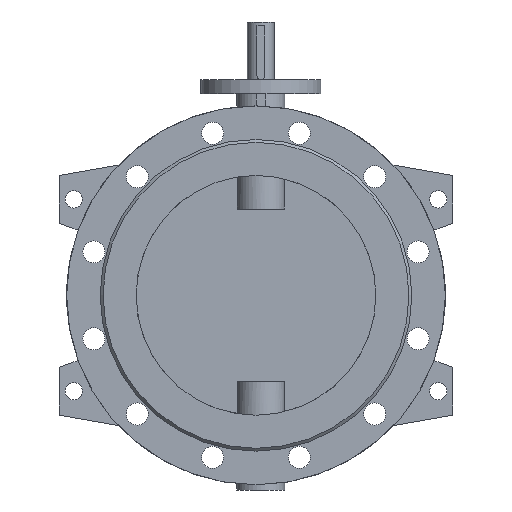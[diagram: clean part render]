
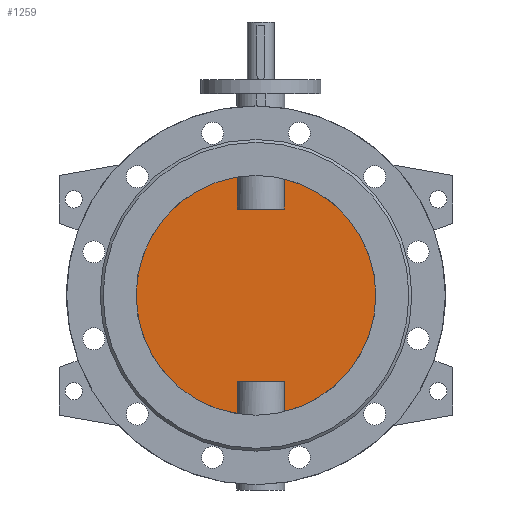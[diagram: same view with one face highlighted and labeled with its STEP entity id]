
A CAD part, front view. The second image highlights one B-rep face of the part: STEP entity #1259.
In plain terms, the highlighted planar face has unit normal (0, -1, 0).
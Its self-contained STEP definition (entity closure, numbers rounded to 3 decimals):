
#1259=ADVANCED_FACE('',(#2605),#2607,.F.);
#2605=FACE_BOUND('',#2606,.T.);
#2606=EDGE_LOOP('',(#3369,#3370,#3371,#3372,#3373,#3374,#3375,#3376));
#2607=PLANE('',#2608);
#2608=AXIS2_PLACEMENT_3D('',#2609,#2610,#2611);
#2609=CARTESIAN_POINT('',(0.,-5.,0.));
#2610=DIRECTION('',(0.,1.,0.));
#2611=DIRECTION('',(1.,0.,0.));
#3369=ORIENTED_EDGE('',*,*,#3751,.T.);
#3370=ORIENTED_EDGE('',*,*,#3767,.T.);
#3371=ORIENTED_EDGE('',*,*,#3768,.T.);
#3372=ORIENTED_EDGE('',*,*,#3769,.T.);
#3373=ORIENTED_EDGE('',*,*,#3753,.T.);
#3374=ORIENTED_EDGE('',*,*,#3770,.T.);
#3375=ORIENTED_EDGE('',*,*,#3771,.T.);
#3376=ORIENTED_EDGE('',*,*,#3772,.T.);
#3751=EDGE_CURVE('',#4351,#4352,#4353,.F.);
#3753=EDGE_CURVE('',#4356,#4354,#4357,.F.);
#3767=EDGE_CURVE('',#4352,#4383,#4384,.T.);
#3768=EDGE_CURVE('',#4383,#4385,#4386,.F.);
#3769=EDGE_CURVE('',#4385,#4356,#4387,.F.);
#3770=EDGE_CURVE('',#4354,#4388,#4389,.F.);
#3771=EDGE_CURVE('',#4388,#4390,#4391,.F.);
#3772=EDGE_CURVE('',#4390,#4351,#4392,.T.);
#4351=VERTEX_POINT('',#6453);
#4352=VERTEX_POINT('',#6454);
#4353=CIRCLE('',#6455,125.);
#4354=VERTEX_POINT('',#6459);
#4356=VERTEX_POINT('',#6557);
#4357=CIRCLE('',#6558,125.);
#4383=VERTEX_POINT('',#6951);
#4384=LINE('',#6952,#6953);
#4385=VERTEX_POINT('',#6955);
#4386=LINE('',#6956,#6957);
#4387=LINE('',#6959,#6960);
#4388=VERTEX_POINT('',#6962);
#4389=LINE('',#6963,#6964);
#4390=VERTEX_POINT('',#6966);
#4391=LINE('',#6967,#6968);
#4392=LINE('',#6970,#6971);
#6453=CARTESIAN_POINT('',(29.495,-5.,-121.47));
#6454=CARTESIAN_POINT('',(29.495,-5.,121.47));
#6455=AXIS2_PLACEMENT_3D('',#6456,#6457,#6458);
#6456=CARTESIAN_POINT('',(0.,-5.,0.));
#6457=DIRECTION('',(0.,1.,0.));
#6458=DIRECTION('',(0.236,0.,0.972));
#6459=CARTESIAN_POINT('',(-19.495,-5.,-123.47));
#6557=CARTESIAN_POINT('',(-19.495,-5.,123.47));
#6558=AXIS2_PLACEMENT_3D('',#6559,#6560,#6561);
#6559=CARTESIAN_POINT('',(0.,-5.,0.));
#6560=DIRECTION('',(0.,1.,0.));
#6561=DIRECTION('',(-0.156,0.,-0.988));
#6951=CARTESIAN_POINT('',(29.495,-5.,90.));
#6952=CARTESIAN_POINT('',(29.495,-5.,121.47));
#6953=VECTOR('',#6954,1.);
#6954=DIRECTION('',(0.,0.,-1.));
#6955=CARTESIAN_POINT('',(-19.495,-5.,90.));
#6956=CARTESIAN_POINT('',(-19.495,-5.,90.));
#6957=VECTOR('',#6958,1.);
#6958=DIRECTION('',(1.,0.,0.));
#6959=CARTESIAN_POINT('',(-19.495,-5.,123.47));
#6960=VECTOR('',#6961,1.);
#6961=DIRECTION('',(0.,0.,-1.));
#6962=CARTESIAN_POINT('',(-19.495,-5.,-90.));
#6963=CARTESIAN_POINT('',(-19.495,-5.,-90.));
#6964=VECTOR('',#6965,1.);
#6965=DIRECTION('',(0.,0.,-1.));
#6966=CARTESIAN_POINT('',(29.495,-5.,-90.));
#6967=CARTESIAN_POINT('',(29.495,-5.,-90.));
#6968=VECTOR('',#6969,1.);
#6969=DIRECTION('',(-1.,0.,0.));
#6970=CARTESIAN_POINT('',(29.495,-5.,-90.));
#6971=VECTOR('',#6972,1.);
#6972=DIRECTION('',(0.,0.,-1.));
